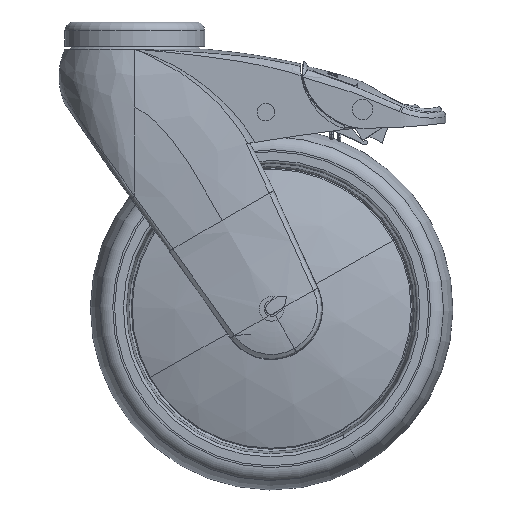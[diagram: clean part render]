
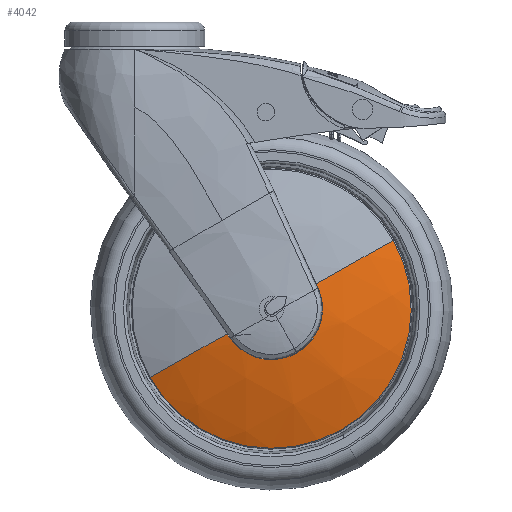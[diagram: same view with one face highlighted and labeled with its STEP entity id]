
A CAD part, front view. The second image highlights one B-rep face of the part: STEP entity #4042.
In plain terms, the highlighted spherical face has radius 136.86 mm.
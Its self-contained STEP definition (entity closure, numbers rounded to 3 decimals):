
#3857 = EDGE_LOOP ( 'NONE', ( #3961, #4045, #4051, #3940, #3992, #4014 ) ) ;
#3882 = VERTEX_POINT ( 'NONE', #17746 ) ;
#3914 = VERTEX_POINT ( 'NONE', #17778 ) ;
#3935 = EDGE_CURVE ( 'NONE', #3951, #3990, #17874, .T. ) ;
#3940 = ORIENTED_EDGE ( 'NONE', *, *, #3935, .F. ) ;
#3943 = EDGE_CURVE ( 'NONE', #3951, #3971, #17869, .T. ) ;
#3951 = VERTEX_POINT ( 'NONE', #18058 ) ;
#3961 = ORIENTED_EDGE ( 'NONE', *, *, #3985, .T. ) ;
#3970 = EDGE_CURVE ( 'NONE', #3978, #3914, #18063, .T. ) ;
#3971 = VERTEX_POINT ( 'NONE', #18074 ) ;
#3978 = VERTEX_POINT ( 'NONE', #18116 ) ;
#3985 = EDGE_CURVE ( 'NONE', #3882, #3978, #18210, .T. ) ;
#3990 = VERTEX_POINT ( 'NONE', #18212 ) ;
#3992 = ORIENTED_EDGE ( 'NONE', *, *, #3943, .T. ) ;
#4014 = ORIENTED_EDGE ( 'NONE', *, *, #4049, .T. ) ;
#4042 = ADVANCED_FACE ( 'NONE', ( #18594 ), #18593, .T. ) ;
#4045 = ORIENTED_EDGE ( 'NONE', *, *, #3970, .T. ) ;
#4049 = EDGE_CURVE ( 'NONE', #3971, #3882, #18583, .T. ) ;
#4051 = ORIENTED_EDGE ( 'NONE', *, *, #4054, .F. ) ;
#4054 = EDGE_CURVE ( 'NONE', #3990, #3914, #18597, .T. ) ;
#17746 = CARTESIAN_POINT ( 'NONE',  ( 8.581, -32.469, -46.153 ) ) ;
#17778 = CARTESIAN_POINT ( 'NONE',  ( -18.692, -24.924, -59.889 ) ) ;
#17869 = CIRCLE ( 'NONE', #17958, 135.74 ) ;
#17874 = CIRCLE ( 'NONE', #17989, 136.86 ) ;
#17953 = DIRECTION ( 'NONE',  ( 0.419, 0., -0.908 ) ) ;
#17955 = DIRECTION ( 'NONE',  ( 0.908, 0., 0.419 ) ) ;
#17957 = CARTESIAN_POINT ( 'NONE',  ( 38.948, 103.27, -29.076 ) ) ;
#17958 = AXIS2_PLACEMENT_3D ( 'NONE', #17957, #17955, #17953 ) ;
#17965 = DIRECTION ( 'NONE',  ( 0.872, 0., 0.49 ) ) ;
#17967 = DIRECTION ( 'NONE',  ( -0.49, 0., 0.872 ) ) ;
#17968 = CARTESIAN_POINT ( 'NONE',  ( 23.08, 103.27, -36.397 ) ) ;
#17989 = AXIS2_PLACEMENT_3D ( 'NONE', #17968, #17967, #17965 ) ;
#18058 = CARTESIAN_POINT ( 'NONE',  ( 38.361, -32.462, -27.804 ) ) ;
#18063 = CIRCLE ( 'NONE', #18069, 136.86 ) ;
#18069 = AXIS2_PLACEMENT_3D ( 'NONE', #18073, #18123, #18122 ) ;
#18073 = CARTESIAN_POINT ( 'NONE',  ( 23.08, 103.27, -36.397 ) ) ;
#18074 = CARTESIAN_POINT ( 'NONE',  ( 38.948, -32.469, -29.076 ) ) ;
#18116 = CARTESIAN_POINT ( 'NONE',  ( 7.799, -32.462, -44.991 ) ) ;
#18122 = DIRECTION ( 'NONE',  ( -0.872, 0., -0.49 ) ) ;
#18123 = DIRECTION ( 'NONE',  ( 0.49, 0., -0.872 ) ) ;
#18210 = CIRCLE ( 'NONE', #18217, 135.74 ) ;
#18212 = CARTESIAN_POINT ( 'NONE',  ( 64.853, -24.924, -12.906 ) ) ;
#18215 = CARTESIAN_POINT ( 'NONE',  ( 8.581, 103.27, -46.153 ) ) ;
#18217 = AXIS2_PLACEMENT_3D ( 'NONE', #18215, #18379, #18378 ) ;
#18378 = DIRECTION ( 'NONE',  ( -0.558, 0., 0.83 ) ) ;
#18379 = DIRECTION ( 'NONE',  ( -0.83, 0., -0.558 ) ) ;
#18583 = CIRCLE ( 'NONE', #18697, 17.476 ) ;
#18585 = DIRECTION ( 'NONE',  ( 0.872, 0., 0.49 ) ) ;
#18587 = DIRECTION ( 'NONE',  ( 0.49, 0., -0.872 ) ) ;
#18588 = CARTESIAN_POINT ( 'NONE',  ( 23.08, 103.27, -36.397 ) ) ;
#18589 = AXIS2_PLACEMENT_3D ( 'NONE', #18588, #18587, #18585 ) ;
#18592 = CARTESIAN_POINT ( 'NONE',  ( 23.08, -24.924, -36.397 ) ) ;
#18593 = SPHERICAL_SURFACE ( 'NONE', #18589, 136.86 ) ;
#18594 = FACE_OUTER_BOUND ( 'NONE', #3857, .T. ) ;
#18597 = CIRCLE ( 'NONE', #18698, 47.925 ) ;
#18681 = DIRECTION ( 'NONE',  ( -0.872, 0., -0.49 ) ) ;
#18683 = DIRECTION ( 'NONE',  ( 0., 1., 0. ) ) ;
#18694 = DIRECTION ( 'NONE',  ( -0.872, 0., -0.49 ) ) ;
#18695 = DIRECTION ( 'NONE',  ( 0., 1., 0. ) ) ;
#18696 = CARTESIAN_POINT ( 'NONE',  ( 23.08, -32.469, -36.397 ) ) ;
#18697 = AXIS2_PLACEMENT_3D ( 'NONE', #18696, #18695, #18694 ) ;
#18698 = AXIS2_PLACEMENT_3D ( 'NONE', #18592, #18683, #18681 ) ;
